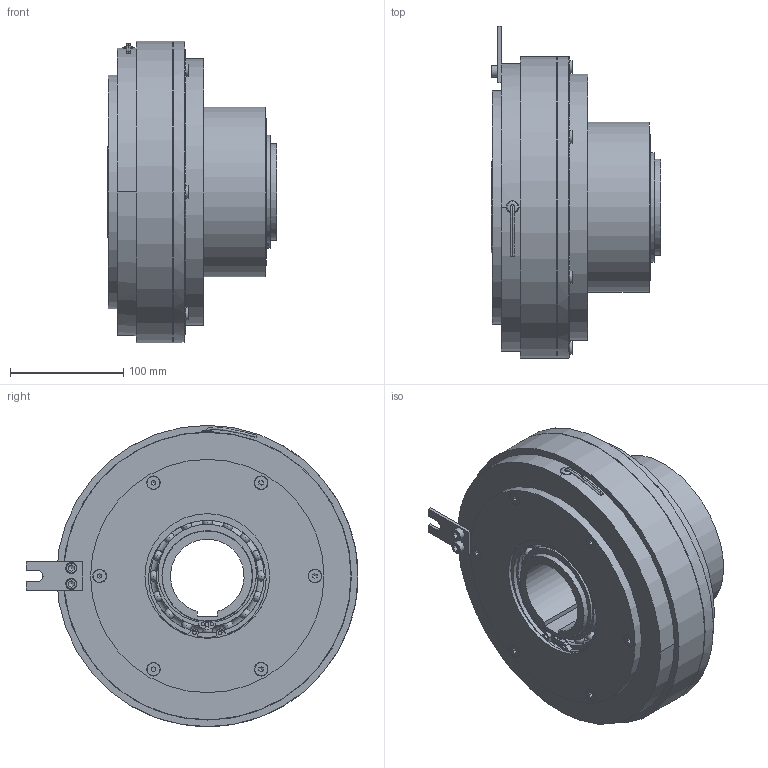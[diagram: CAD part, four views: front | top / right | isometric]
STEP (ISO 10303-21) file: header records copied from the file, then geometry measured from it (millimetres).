
FILE_DESCRIPTION(/* description */ (''),/* implementation_level */ '2;1');
FILE_NAME(/* name */ 'X:\INVENTOR\DISEGNI\08_Freni_Friz_Elettmag_Monodisco\08_26 EMSL_DF\EMSL_DF STEP\08_26_260_41 EMSL260_DF-R@STEP.stp',/* time_stamp */ '2018-04-24T09:53:23+02:00',/* author */ ('stefano'),/* organization */ (''),/* preprocessor_version */ 'ST-DEVELOPER v17',/* originating_system */ 'Autodesk Inventor 2018',/* authorisation */ '');
FILE_SCHEMA (('AUTOMOTIVE_DESIGN { 1 0 10303 214 3 1 1 }'));
Length unit declared in the file: millimetre
Products named in the file (1): 08_26_260_41 EMSL260_DF-R_Substitute_1
Bounding box: 150 x 293 x 266 mm (x, y, z)
Volume: 3839203.8 mm3; surface area: 694474.1 mm2
Topology: 1 solids, 1 shells, 978 faces, 3186 edges, 2152 vertices
Faces by surface type: cylinder 352, plane 331, torus 144, cone 92, sphere 56, bspline 3
Full cylindrical faces by diameter (mm): 2 x6, 3 x2, 3.5 x4, 4 x1, 4.917 x10, 6.647 x12, 7 x6, 7.1 x24, 10 x12, 11 x25, 11.34 x6, 12 x6, 13 x6, 13.5 x6, 76.5 x1, 80 x2, 81.5 x1, 85 x4, 89.6 x4, 90 x1, 99 x1, 99.4 x4, 100.4 x4, 105 x2, 110 x4, 114 x2, 115.6 x4, 130 x5, 138 x1, 150 x1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
Entity records: 43512 total; most frequent: CARTESIAN_POINT 14771, ORIENTED_EDGE 6078, DIRECTION 5904, EDGE_CURVE 3039, AXIS2_PLACEMENT_3D 2527, VERTEX_POINT 2152, CIRCLE 1551, EDGE_LOOP 1279
